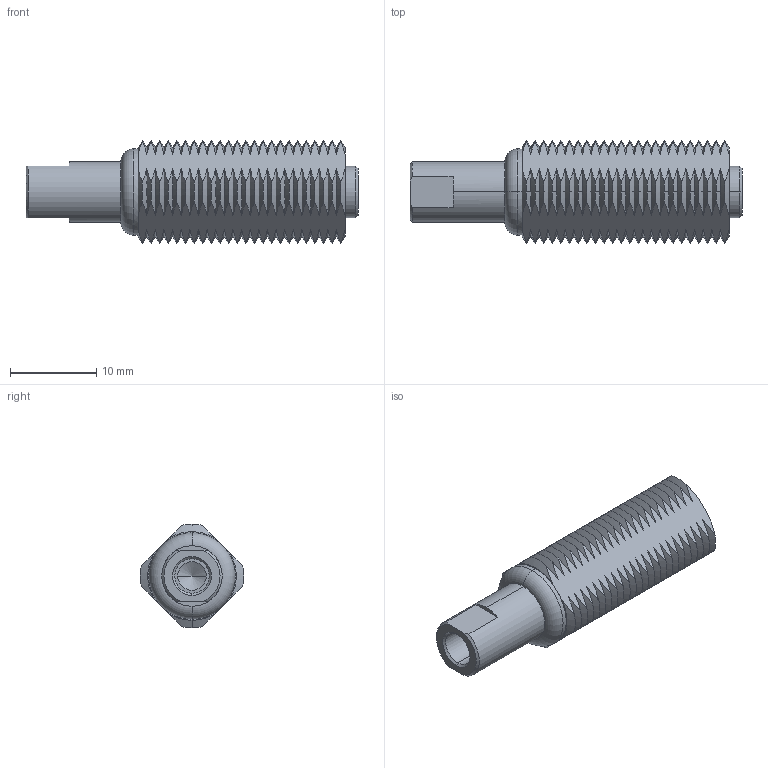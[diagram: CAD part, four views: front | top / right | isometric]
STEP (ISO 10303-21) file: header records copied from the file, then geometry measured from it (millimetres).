
FILE_DESCRIPTION (( 'STEP AP203' ), '1' );
FILE_NAME ('32790.W0132.step', '2013-07-26T15:09:29', ( 'Wixroyd' ), ( 'Wixroyd' ), 'SwSTEP 2.0', 'SolidWorks 2009', '' );
FILE_SCHEMA (( 'CONFIG_CONTROL_DESIGN' ));
Length unit declared in the file: millimetre
Products named in the file (3): 32790.W0132; Part1_32790.W0132; Part2_32790.W0132
Assembly tree (2 placements, depth 2):
  32790.W0132
    Part2_32790.W0132
    Part1_32790.W0132
Bounding box: 38.5 x 11.97 x 12 mm (x, y, z)
Volume: 2324.4 mm3; surface area: 3002.4 mm2
Topology: 2 solids, 2 shells, 291 faces, 838 edges, 552 vertices
Faces by surface type: cone 252, plane 19, cylinder 18, torus 2
Entity records: 10339 total; most frequent: CARTESIAN_POINT 2846, ORIENTED_EDGE 1668, DIRECTION 1388, EDGE_CURVE 834, AXIS2_PLACEMENT_3D 646, VERTEX_POINT 552, B_SPLINE_CURVE_WITH_KNOTS 388, CIRCLE 350
